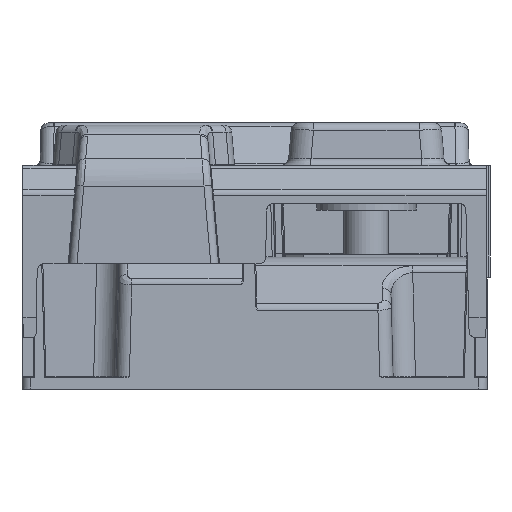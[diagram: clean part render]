
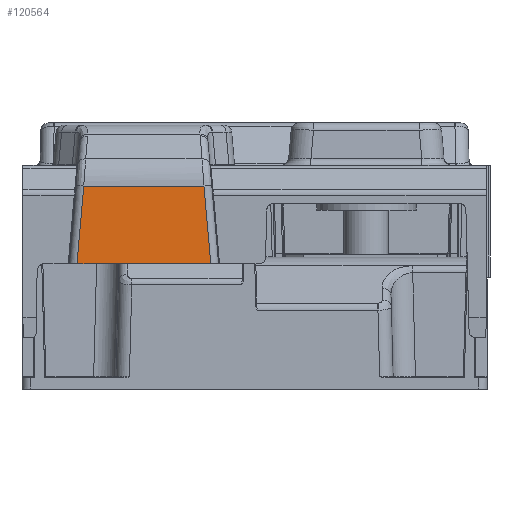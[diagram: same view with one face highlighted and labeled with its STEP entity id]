
A CAD part, left-side view. The second image highlights one B-rep face of the part: STEP entity #120564.
In plain terms, the highlighted planar face has unit normal (-0.999, 0, 0.035).
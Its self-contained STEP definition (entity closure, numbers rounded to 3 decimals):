
#2345 = DIRECTION ( 'NONE',  ( 0.035, 0.087, 0.996 ) ) ;
#2722 = ORIENTED_EDGE ( 'NONE', *, *, #168481, .T. ) ;
#6246 = CARTESIAN_POINT ( 'NONE',  ( -75.605, 49.989, 45.399 ) ) ;
#7366 = DIRECTION ( 'NONE',  ( 0., -1., 0. ) ) ;
#12061 = VECTOR ( 'NONE', #2345, 1000. ) ;
#14931 = EDGE_CURVE ( 'NONE', #20144, #95576, #129846, .T. ) ;
#16228 = VERTEX_POINT ( 'NONE', #149584 ) ;
#18184 = VECTOR ( 'NONE', #131569, 1000. ) ;
#19080 = ORIENTED_EDGE ( 'NONE', *, *, #51591, .T. ) ;
#20144 = VERTEX_POINT ( 'NONE', #6246 ) ;
#20647 = CARTESIAN_POINT ( 'NONE',  ( -76.213, 51.511, 28.002 ) ) ;
#24781 = CARTESIAN_POINT ( 'NONE',  ( -75.605, 23.111, 45.399 ) ) ;
#25126 = DIRECTION ( 'NONE',  ( 0.999, 0., -0.035 ) ) ;
#31565 = CARTESIAN_POINT ( 'NONE',  ( -76.125, 21.809, 30.513 ) ) ;
#36421 = CARTESIAN_POINT ( 'NONE',  ( -76.218, 51.524, 27.85 ) ) ;
#36989 = CARTESIAN_POINT ( 'NONE',  ( -75.605, 50.55, 45.399 ) ) ;
#47812 = CARTESIAN_POINT ( 'NONE',  ( -76.213, 50.55, 28.002 ) ) ;
#49273 = PLANE ( 'NONE',  #79050 ) ;
#51591 = EDGE_CURVE ( 'NONE', #20144, #89157, #75136, .T. ) ;
#63035 = DIRECTION ( 'NONE',  ( -0.035, 0., -0.999 ) ) ;
#75136 = LINE ( 'NONE', #36421, #152559 ) ;
#79050 = AXIS2_PLACEMENT_3D ( 'NONE', #92216, #25126, #63035 ) ;
#89157 = VERTEX_POINT ( 'NONE', #20647 ) ;
#92216 = CARTESIAN_POINT ( 'NONE',  ( -76.213, 50.55, 28.002 ) ) ;
#95576 = VERTEX_POINT ( 'NONE', #24781 ) ;
#97771 = LINE ( 'NONE', #31565, #12061 ) ;
#114621 = FACE_OUTER_BOUND ( 'NONE', #156026, .T. ) ;
#120564 = ADVANCED_FACE ( 'NONE', ( #114621 ), #49273, .F. ) ;
#128986 = ORIENTED_EDGE ( 'NONE', *, *, #14931, .F. ) ;
#129846 = LINE ( 'NONE', #36989, #18184 ) ;
#131540 = ORIENTED_EDGE ( 'NONE', *, *, #139175, .T. ) ;
#131569 = DIRECTION ( 'NONE',  ( 0., -1., 0. ) ) ;
#139175 = EDGE_CURVE ( 'NONE', #16228, #95576, #97771, .T. ) ;
#139737 = VECTOR ( 'NONE', #7366, 1000. ) ;
#149584 = CARTESIAN_POINT ( 'NONE',  ( -76.213, 21.589, 28.002 ) ) ;
#152559 = VECTOR ( 'NONE', #156008, 1000. ) ;
#152774 = LINE ( 'NONE', #47812, #139737 ) ;
#156008 = DIRECTION ( 'NONE',  ( -0.035, 0.087, -0.996 ) ) ;
#156026 = EDGE_LOOP ( 'NONE', ( #128986, #19080, #2722, #131540 ) ) ;
#168481 = EDGE_CURVE ( 'NONE', #89157, #16228, #152774, .T. ) ;
